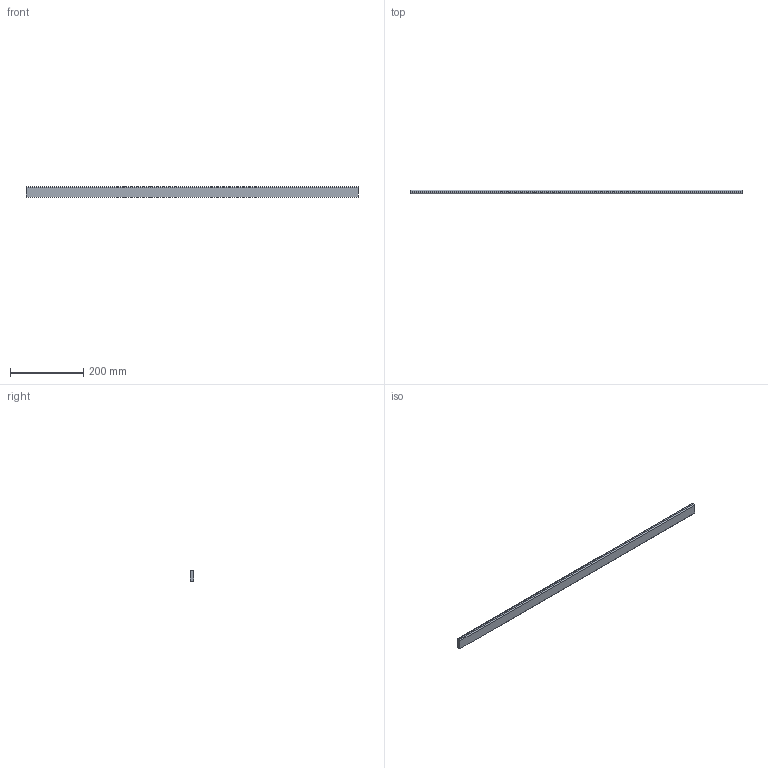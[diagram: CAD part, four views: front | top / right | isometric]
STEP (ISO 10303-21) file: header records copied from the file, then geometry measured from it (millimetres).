
FILE_DESCRIPTION (( 'STEP AP214' ), '1' );
FILE_NAME ('_Querreling_KAB-1000_KS-19.step', '2010-08-26T14:58:39', ( 'grass' ), ( '' ), 'SwSTEP 2.0', 'SolidWorks 2009', '' );
FILE_SCHEMA (( 'AUTOMOTIVE_DESIGN' ));
Length unit declared in the file: millimetre
Products named in the file (1): _Querreling_KAB-1000_KS-19
Bounding box: 906.5 x 10.5 x 30 mm (x, y, z)
Volume: 281656.8 mm3; surface area: 70935.3 mm2
Topology: 1 solids, 1 shells, 10 faces, 24 edges, 16 vertices
Faces by surface type: plane 6, cylinder 4
Entity records: 330 total; most frequent: DIRECTION 54, CARTESIAN_POINT 51, ORIENTED_EDGE 48, EDGE_CURVE 24, AXIS2_PLACEMENT_3D 19, LINE 16, VECTOR 16, VERTEX_POINT 16
